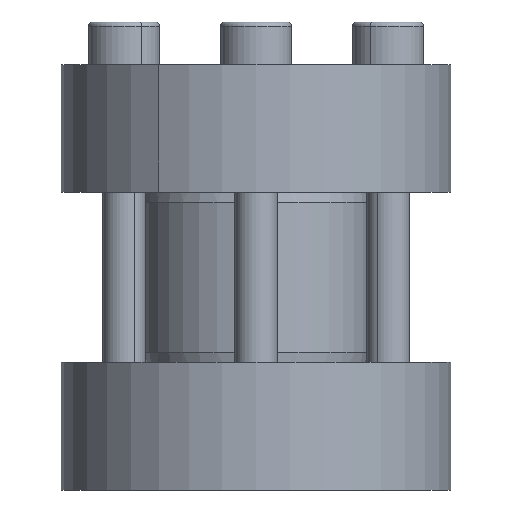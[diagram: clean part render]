
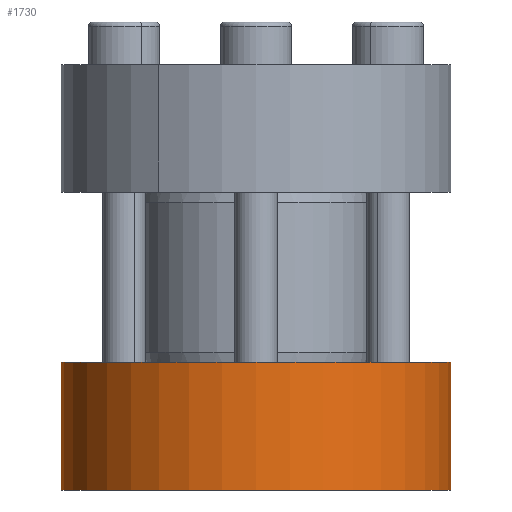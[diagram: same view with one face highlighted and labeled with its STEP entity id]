
A CAD part, front view. The second image highlights one B-rep face of the part: STEP entity #1730.
In plain terms, the highlighted cylindrical face has radius 27.5 mm (diameter 55 mm), a partial arc.
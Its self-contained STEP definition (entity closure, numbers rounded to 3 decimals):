
#98 = DIRECTION ( 'NONE',  ( 0., 0., -1. ) ) ;
#121 = DIRECTION ( 'NONE',  ( 1., 0., 0. ) ) ;
#125 = CARTESIAN_POINT ( 'NONE',  ( 0., 0., 16.493 ) ) ;
#152 = CIRCLE ( 'NONE', #6359, 27.5 ) ;
#329 = DIRECTION ( 'NONE',  ( 0., 0., 1. ) ) ;
#394 = ORIENTED_EDGE ( 'NONE', *, *, #8805, .T. ) ;
#488 = CARTESIAN_POINT ( 'NONE',  ( -27.5, 0., -1.507 ) ) ;
#524 = ORIENTED_EDGE ( 'NONE', *, *, #8193, .T. ) ;
#1066 = VERTEX_POINT ( 'NONE', #2886 ) ;
#1730 = ADVANCED_FACE ( 'NONE', ( #7827 ), #8864, .T. ) ;
#2107 = AXIS2_PLACEMENT_3D ( 'NONE', #4588, #329, #5322 ) ;
#2208 = EDGE_CURVE ( 'NONE', #1066, #7756, #152, .T. ) ;
#2531 = VERTEX_POINT ( 'NONE', #488 ) ;
#2886 = CARTESIAN_POINT ( 'NONE',  ( -27.5, 0., 16.493 ) ) ;
#2992 = DIRECTION ( 'NONE',  ( -1., 0., 0. ) ) ;
#3215 = DIRECTION ( 'NONE',  ( 0., 0., -1. ) ) ;
#3346 = DIRECTION ( 'NONE',  ( 0., 0., -1. ) ) ;
#3874 = EDGE_CURVE ( 'NONE', #7756, #5850, #4205, .T. ) ;
#3948 = ORIENTED_EDGE ( 'NONE', *, *, #3874, .F. ) ;
#4205 = LINE ( 'NONE', #7622, #8026 ) ;
#4382 = DIRECTION ( 'NONE',  ( 0., 0., 1. ) ) ;
#4487 = AXIS2_PLACEMENT_3D ( 'NONE', #125, #98, #2992 ) ;
#4588 = CARTESIAN_POINT ( 'NONE',  ( 0., 0., -1.507 ) ) ;
#4610 = VECTOR ( 'NONE', #3215, 1000. ) ;
#5322 = DIRECTION ( 'NONE',  ( 1., 0., 0. ) ) ;
#5850 = VERTEX_POINT ( 'NONE', #6272 ) ;
#6063 = CARTESIAN_POINT ( 'NONE',  ( -27.5, 0., 16.493 ) ) ;
#6272 = CARTESIAN_POINT ( 'NONE',  ( 27.5, 0., -1.507 ) ) ;
#6359 = AXIS2_PLACEMENT_3D ( 'NONE', #8687, #4382, #121 ) ;
#6634 = ORIENTED_EDGE ( 'NONE', *, *, #2208, .F. ) ;
#6742 = LINE ( 'NONE', #6063, #4610 ) ;
#6879 = EDGE_LOOP ( 'NONE', ( #3948, #6634, #394, #524 ) ) ;
#7622 = CARTESIAN_POINT ( 'NONE',  ( 27.5, 0., 16.493 ) ) ;
#7756 = VERTEX_POINT ( 'NONE', #8254 ) ;
#7827 = FACE_OUTER_BOUND ( 'NONE', #6879, .T. ) ;
#8026 = VECTOR ( 'NONE', #3346, 1000. ) ;
#8193 = EDGE_CURVE ( 'NONE', #2531, #5850, #8834, .T. ) ;
#8254 = CARTESIAN_POINT ( 'NONE',  ( 27.5, 0., 16.493 ) ) ;
#8687 = CARTESIAN_POINT ( 'NONE',  ( 0., 0., 16.493 ) ) ;
#8805 = EDGE_CURVE ( 'NONE', #1066, #2531, #6742, .T. ) ;
#8834 = CIRCLE ( 'NONE', #2107, 27.5 ) ;
#8864 = CYLINDRICAL_SURFACE ( 'NONE', #4487, 27.5 ) ;
